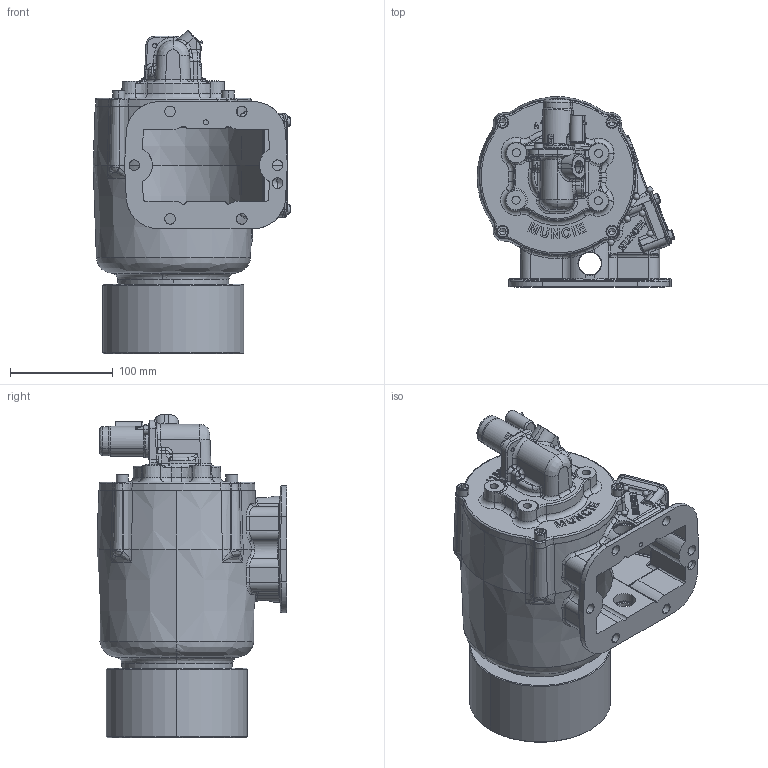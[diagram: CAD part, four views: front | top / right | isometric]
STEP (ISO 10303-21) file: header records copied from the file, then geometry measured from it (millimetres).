
FILE_DESCRIPTION (( 'STEP AP203' ), '1' );
FILE_NAME ('CS6B-XXXXX-S1IX.STEP', '2023-06-02T19:15:53', ( '' ), ( '' ), 'SwSTEP 2.0', 'SolidWorks 2021', '' );
FILE_SCHEMA (( 'CONFIG_CONTROL_DESIGN' ));
Length unit declared in the file: inch
Products named in the file (14): 19T34462-1; 36MCL100-1; 35T40860-1; 16T41119; 14T38354; 19T41118; 19T40859; 15T41597; 01T36713; 12T36751; CS6B-XXXXX-S1IX; 11T36124-1; 19T35237; 12T34003
Assembly tree (23 placements, depth 2):
  CS6B-XXXXX-S1IX
    01T36713
    11T36124-1
    12T34003
    12T36751
    15T41597
    16T41119
    19T34462-1  x4
    19T35237  x4
    19T40859  x2
    35T40860-1
    36MCL100-1
    19T41118  x4
    14T38354
Bounding box: 192.82 x 185.25 x 315.49 mm (x, y, z)
Volume: 1785119 mm3; surface area: 455713 mm2
Topology: 24 solids, 24 shells, 4078 faces, 10875 edges, 6948 vertices
Faces by surface type: plane 1628, bspline 1453, cylinder 650, cone 247, torus 96, sphere 4
Entity records: 216135 total; most frequent: CARTESIAN_POINT 128900, ORIENTED_EDGE 20490, DIRECTION 13090, EDGE_CURVE 10245, VERTEX_POINT 6634, LINE 5156, VECTOR 5156, EDGE_LOOP 4197
